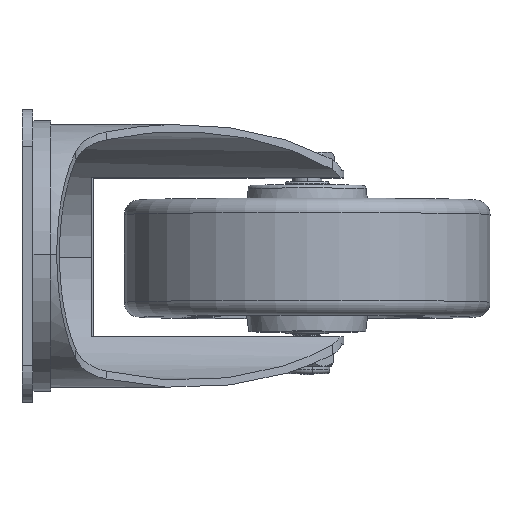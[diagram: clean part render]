
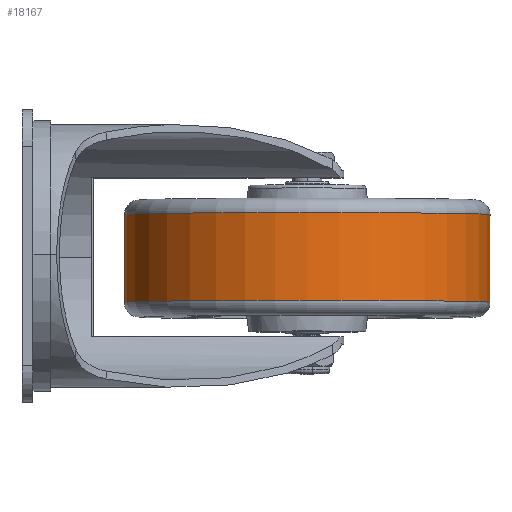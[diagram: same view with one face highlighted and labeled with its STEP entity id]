
A CAD part, left-side view. The second image highlights one B-rep face of the part: STEP entity #18167.
In plain terms, the highlighted cylindrical face has radius 50 mm (diameter 100 mm), a partial arc.
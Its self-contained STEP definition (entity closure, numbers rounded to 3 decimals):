
#958 = VERTEX_POINT ( 'NONE', #6229 ) ;
#1324 = DIRECTION ( 'NONE',  ( 0., 0., -1. ) ) ;
#2930 = EDGE_CURVE ( 'NONE', #5372, #19798, #18050, .T. ) ;
#3952 = CARTESIAN_POINT ( 'NONE',  ( 0., 0., -50. ) ) ;
#4666 = CARTESIAN_POINT ( 'NONE',  ( 0., -12., 0. ) ) ;
#4990 = DIRECTION ( 'NONE',  ( 0., -1., 0. ) ) ;
#5372 = VERTEX_POINT ( 'NONE', #13387 ) ;
#5517 = EDGE_CURVE ( 'NONE', #19798, #958, #5610, .T. ) ;
#5610 = LINE ( 'NONE', #3952, #7403 ) ;
#5972 = DIRECTION ( 'NONE',  ( 0., 0., -1. ) ) ;
#6229 = CARTESIAN_POINT ( 'NONE',  ( 0., -12., -50. ) ) ;
#6283 = ORIENTED_EDGE ( 'NONE', *, *, #13816, .F. ) ;
#6351 = DIRECTION ( 'NONE',  ( 0., 0., -1. ) ) ;
#7071 = ORIENTED_EDGE ( 'NONE', *, *, #5517, .T. ) ;
#7403 = VECTOR ( 'NONE', #16025, 1000. ) ;
#7988 = CARTESIAN_POINT ( 'NONE',  ( 0., 0., 50. ) ) ;
#8183 = CARTESIAN_POINT ( 'NONE',  ( 0., 12., -50. ) ) ;
#8438 = AXIS2_PLACEMENT_3D ( 'NONE', #10909, #21837, #5972 ) ;
#10123 = VERTEX_POINT ( 'NONE', #15564 ) ;
#10503 = AXIS2_PLACEMENT_3D ( 'NONE', #4666, #16640, #1324 ) ;
#10528 = EDGE_LOOP ( 'NONE', ( #15294, #16377, #7071, #6283 ) ) ;
#10909 = CARTESIAN_POINT ( 'NONE',  ( 0., 0., 0. ) ) ;
#11653 = FACE_OUTER_BOUND ( 'NONE', #10528, .T. ) ;
#12274 = EDGE_CURVE ( 'NONE', #5372, #10123, #15273, .T. ) ;
#13387 = CARTESIAN_POINT ( 'NONE',  ( 0., 12., 50. ) ) ;
#13620 = CARTESIAN_POINT ( 'NONE',  ( 0., 12., 0. ) ) ;
#13816 = EDGE_CURVE ( 'NONE', #10123, #958, #16555, .T. ) ;
#15273 = LINE ( 'NONE', #7988, #20874 ) ;
#15294 = ORIENTED_EDGE ( 'NONE', *, *, #12274, .F. ) ;
#15564 = CARTESIAN_POINT ( 'NONE',  ( 0., -12., 50. ) ) ;
#16025 = DIRECTION ( 'NONE',  ( 0., -1., 0. ) ) ;
#16377 = ORIENTED_EDGE ( 'NONE', *, *, #2930, .T. ) ;
#16555 = CIRCLE ( 'NONE', #10503, 50. ) ;
#16640 = DIRECTION ( 'NONE',  ( 0., -1., 0. ) ) ;
#18050 = CIRCLE ( 'NONE', #19151, 50. ) ;
#18167 = ADVANCED_FACE ( 'NONE', ( #11653 ), #18475, .T. ) ;
#18475 = CYLINDRICAL_SURFACE ( 'NONE', #8438, 50. ) ;
#19151 = AXIS2_PLACEMENT_3D ( 'NONE', #13620, #4990, #6351 ) ;
#19798 = VERTEX_POINT ( 'NONE', #8183 ) ;
#20874 = VECTOR ( 'NONE', #22091, 1000. ) ;
#21837 = DIRECTION ( 'NONE',  ( 0., -1., 0. ) ) ;
#22091 = DIRECTION ( 'NONE',  ( 0., -1., 0. ) ) ;
